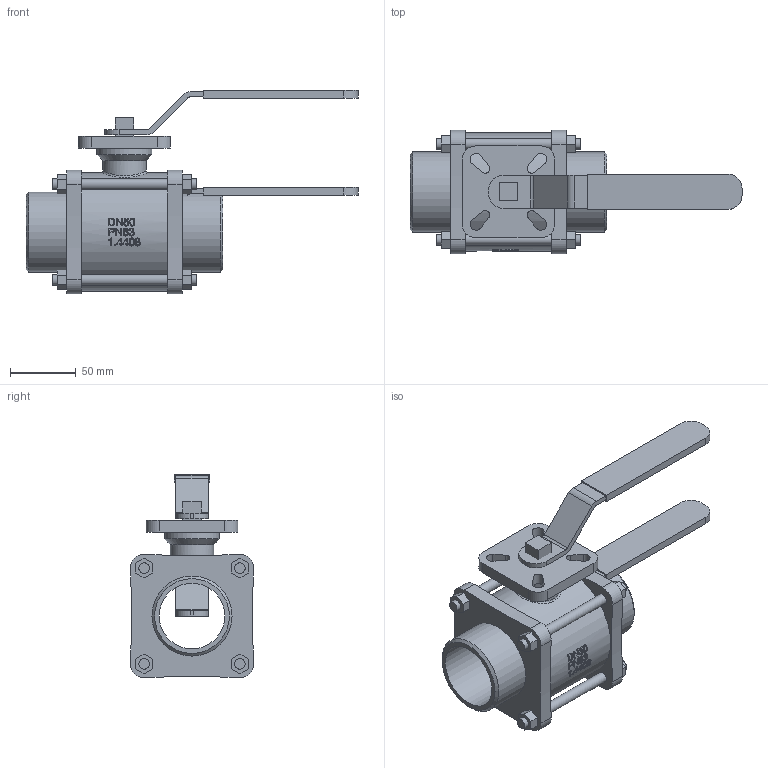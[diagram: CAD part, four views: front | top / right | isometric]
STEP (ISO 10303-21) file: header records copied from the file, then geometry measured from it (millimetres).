
FILE_DESCRIPTION( ( 'Unknown' ), '1' );
FILE_NAME( 'W:/ECCUA/ROOTSI BPS 3D vidinad/Kuulkraanid/Roostevaba kuulkraanid/Ball valve BPS 2421/Ball valve with hand lever BPS/STEP format/BPS 2421050 ball valve DN50.stp', 'Unknown', ( 'Unknown' ), ( 'Unknown' ), 'PSStep 10.1', 'Unknown', ' ' );
FILE_SCHEMA( ( 'AUTOMOTIVE_DESIGN { 1 0 10303 214 1 1 1 1 }' ) );
Length unit declared in the file: millimetre
Products named in the file (3): Assem1; Hand lever for ball valve DN40-50 BPS 2420-21; BPS 2421050 ball valve DN50
Bounding box: 253 x 93.97 x 154.98 mm (x, y, z)
Volume: 1212505.9 mm3; surface area: 230561.2 mm2
Topology: 4 solids, 4 shells, 568 faces, 1400 edges, 934 vertices
Faces by surface type: plane 324, cylinder 156, bspline 82, cone 6
Full cylindrical faces by diameter (mm): 3 x2, 8 x24, 33 x2, 42 x2, 50 x2, 61 x4, 90 x2
Entity records: 15885 total; most frequent: CARTESIAN_POINT 7516, ORIENTED_EDGE 1328, DIRECTION 978, EDGE_CURVE 664, VERTEX_POINT 461, EDGE_LOOP 381, AXIS2_PLACEMENT_3D 357, FACE_OUTER_BOUND 311
